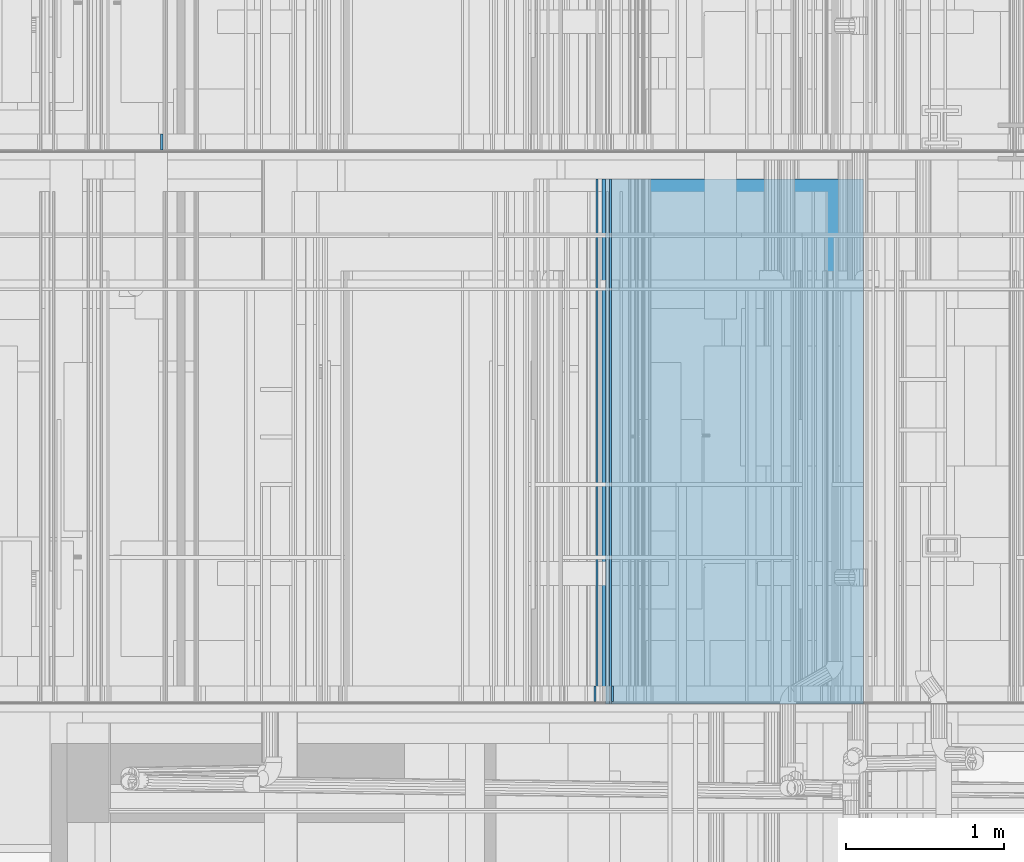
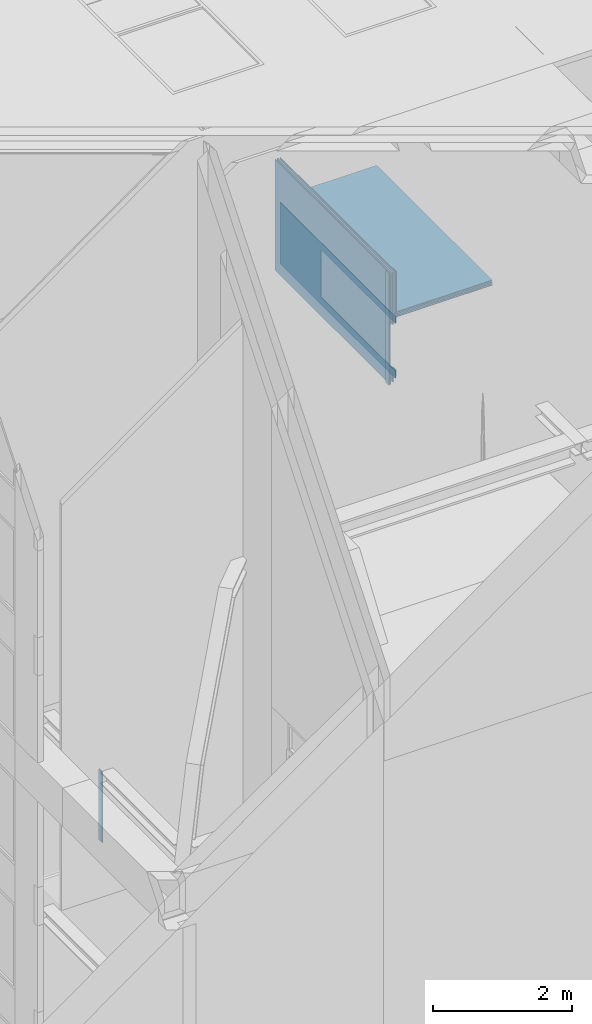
# One storey, part 69 of 583: 11 building element parts, 2 openings, 3 elements without a shape of their own.
"""IFC2X3 building model written with IfcOpenShell, lengths in metres."""

from ifc_helpers import new_model, entity, si_unit, converted_unit, derived_unit, money_unit, direction, frame, frame_2d, origin_with_axes, place, context, subcontext, project, spatial, polyline, rectangle, outline, extrude, material, type_object, element, aggregate, save


model = new_model("IFC2X3")

# Units and contexts
model_context = context("Model", 3, precision=1e-05, world=origin_with_axes(), true_north=direction((0.0, 1.0)))
body_context = subcontext(model_context, "Body", "Model", "MODEL_VIEW", scale=1.0)
ifc_project = project(units=[si_unit("LENGTHUNIT", "METRE"), si_unit("AREAUNIT", "SQUARE_METRE"), si_unit("VOLUMEUNIT", "CUBIC_METRE"), si_unit("ABSORBEDDOSEUNIT", "GRAY"), si_unit("AMOUNTOFSUBSTANCEUNIT", "MOLE"), si_unit("DOSEEQUIVALENTUNIT", "SIEVERT"), si_unit("ELECTRICCAPACITANCEUNIT", "FARAD"), si_unit("ELECTRICCHARGEUNIT", "COULOMB"), si_unit("ELECTRICCONDUCTANCEUNIT", "SIEMENS"), si_unit("ELECTRICCURRENTUNIT", "AMPERE"), si_unit("ELECTRICRESISTANCEUNIT", "OHM"), si_unit("ELECTRICVOLTAGEUNIT", "VOLT"), si_unit("ENERGYUNIT", "JOULE"), si_unit("FORCEUNIT", "NEWTON"), si_unit("FREQUENCYUNIT", "HERTZ"), si_unit("ILLUMINANCEUNIT", "LUX"), si_unit("INDUCTANCEUNIT", "HENRY"), si_unit("LUMINOUSFLUXUNIT", "LUMEN"), si_unit("LUMINOUSINTENSITYUNIT", "CANDELA"), si_unit("MAGNETICFLUXDENSITYUNIT", "TESLA"), si_unit("MAGNETICFLUXUNIT", "WEBER"), si_unit("MASSUNIT", "GRAM"), converted_unit("PLANEANGLEUNIT", "degree", entity("IfcReal", 0.0174532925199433), si_unit("PLANEANGLEUNIT", "RADIAN"), dimensions=[0, 0, 0, 0, 0, 0, 0]), si_unit("POWERUNIT", "WATT"), si_unit("PRESSUREUNIT", "PASCAL"), si_unit("RADIOACTIVITYUNIT", "BECQUEREL"), si_unit("SOLIDANGLEUNIT", "STERADIAN"), si_unit("THERMODYNAMICTEMPERATUREUNIT", "KELVIN"), si_unit("TIMEUNIT", "SECOND"), derived_unit("ACCELERATIONUNIT", [(si_unit("LENGTHUNIT", "METRE"), 1), (si_unit("TIMEUNIT", "SECOND"), -2)]), derived_unit("ANGULARVELOCITYUNIT", [(converted_unit("PLANEANGLEUNIT", "degree", entity("IfcReal", 0.0174532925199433), si_unit("PLANEANGLEUNIT", "RADIAN"), dimensions=[0, 0, 0, 0, 0, 0, 0]), 1), (si_unit("TIMEUNIT", "SECOND"), -1)]), derived_unit("CURVATUREUNIT", [(converted_unit("PLANEANGLEUNIT", "degree", entity("IfcReal", 0.0174532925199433), si_unit("PLANEANGLEUNIT", "RADIAN"), dimensions=[0, 0, 0, 0, 0, 0, 0]), 1), (si_unit("LENGTHUNIT", "METRE"), -1)]), derived_unit("DYNAMICVISCOSITYUNIT", [(si_unit("PRESSUREUNIT", "PASCAL"), 1), (si_unit("TIMEUNIT", "SECOND"), 1)]), derived_unit("HEATFLUXDENSITYUNIT", [(si_unit("POWERUNIT", "WATT"), 1), (si_unit("LENGTHUNIT", "METRE"), -2)]), derived_unit("HEATINGVALUEUNIT", [(si_unit("ENERGYUNIT", "JOULE"), 1), (si_unit("MASSUNIT", "GRAM"), -1)]), derived_unit("INTEGERCOUNTRATEUNIT", [(si_unit("TIMEUNIT", "SECOND"), -1)]), derived_unit("IONCONCENTRATIONUNIT", [(si_unit("MASSUNIT", "GRAM"), 1), (si_unit("VOLUMEUNIT", "CUBIC_METRE"), -1)]), derived_unit("ISOTHERMALMOISTURECAPACITYUNIT", [(si_unit("VOLUMEUNIT", "CUBIC_METRE"), 1), (si_unit("MASSUNIT", "GRAM"), -1)]), derived_unit("KINEMATICVISCOSITYUNIT", [(si_unit("AREAUNIT", "SQUARE_METRE"), 1), (si_unit("TIMEUNIT", "SECOND"), -1)]), derived_unit("LINEARFORCEUNIT", [(si_unit("FORCEUNIT", "NEWTON"), 1), (si_unit("LENGTHUNIT", "METRE"), -1)]), derived_unit("LINEARMOMENTUNIT", [(si_unit("FORCEUNIT", "NEWTON"), 1), (si_unit("LENGTHUNIT", "METRE"), -1)]), derived_unit("LINEARSTIFFNESSUNIT", [(si_unit("FORCEUNIT", "NEWTON"), 1), (si_unit("LENGTHUNIT", "METRE"), -1)]), derived_unit("LINEARVELOCITYUNIT", [(si_unit("LENGTHUNIT", "METRE"), 1), (si_unit("TIMEUNIT", "SECOND"), -1)]), derived_unit("LUMINOUSINTENSITYDISTRIBUTIONUNIT", [(si_unit("LUMINOUSINTENSITYUNIT", "CANDELA"), 1), (si_unit("LUMINOUSFLUXUNIT", "LUMEN"), -1)]), derived_unit("MASSDENSITYUNIT", [(si_unit("MASSUNIT", "GRAM"), 1), (si_unit("VOLUMEUNIT", "CUBIC_METRE"), -1)]), derived_unit("MASSFLOWRATEUNIT", [(si_unit("MASSUNIT", "GRAM"), 1), (si_unit("TIMEUNIT", "SECOND"), -1)]), derived_unit("MASSPERLENGTHUNIT", [(si_unit("MASSUNIT", "GRAM"), 1), (si_unit("LENGTHUNIT", "METRE"), -1)]), derived_unit("MODULUSOFELASTICITYUNIT", [(si_unit("FORCEUNIT", "NEWTON"), 1), (si_unit("AREAUNIT", "SQUARE_METRE"), -1)]), derived_unit("MODULUSOFLINEARSUBGRADEREACTIONUNIT", [(si_unit("FORCEUNIT", "NEWTON"), 1), (si_unit("LENGTHUNIT", "METRE"), -2)]), derived_unit("MODULUSOFROTATIONALSUBGRADEREACTIONUNIT", [(si_unit("FORCEUNIT", "NEWTON"), 1), (si_unit("LENGTHUNIT", "METRE"), 1)]), derived_unit("MODULUSOFSUBGRADEREACTIONUNIT", [(si_unit("FORCEUNIT", "NEWTON"), 1), (si_unit("VOLUMEUNIT", "CUBIC_METRE"), -1)]), derived_unit("MOISTUREDIFFUSIVITYUNIT", [(si_unit("VOLUMEUNIT", "CUBIC_METRE"), 1), (si_unit("TIMEUNIT", "SECOND"), -1)]), derived_unit("MOLECULARWEIGHTUNIT", [(si_unit("MASSUNIT", "GRAM"), 1), (si_unit("AMOUNTOFSUBSTANCEUNIT", "MOLE"), -1)]), derived_unit("PLANARFORCEUNIT", [(si_unit("FORCEUNIT", "NEWTON"), 1), (si_unit("LENGTHUNIT", "METRE"), -2)]), derived_unit("ROTATIONALFREQUENCYUNIT", [(si_unit("TIMEUNIT", "SECOND"), -1)]), derived_unit("ROTATIONALMASSUNIT", [(si_unit("MASSUNIT", "GRAM"), 1), (si_unit("LENGTHUNIT", "METRE"), 2)]), derived_unit("ROTATIONALSTIFFNESSUNIT", [(si_unit("FORCEUNIT", "NEWTON"), 1), (si_unit("LENGTHUNIT", "METRE"), 1), (converted_unit("PLANEANGLEUNIT", "degree", entity("IfcReal", 0.0174532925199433), si_unit("PLANEANGLEUNIT", "RADIAN"), dimensions=[0, 0, 0, 0, 0, 0, 0]), -1)]), derived_unit("SECTIONAREAINTEGRALUNIT", [(si_unit("LENGTHUNIT", "METRE"), 5)]), derived_unit("SECTIONMODULUSUNIT", [(si_unit("LENGTHUNIT", "METRE"), 3)]), derived_unit("SHEARMODULUSUNIT", [(si_unit("FORCEUNIT", "NEWTON"), 1), (si_unit("AREAUNIT", "SQUARE_METRE"), -1)]), derived_unit("SOUNDPOWERUNIT", [(si_unit("ENERGYUNIT", "JOULE"), 1), (si_unit("TIMEUNIT", "SECOND"), -1)]), derived_unit("SPECIFICHEATCAPACITYUNIT", [(si_unit("FORCEUNIT", "NEWTON"), 1), (si_unit("MASSUNIT", "GRAM"), -1), (si_unit("THERMODYNAMICTEMPERATUREUNIT", "KELVIN"), -1)]), derived_unit("TEMPERATUREGRADIENTUNIT", [(si_unit("THERMODYNAMICTEMPERATUREUNIT", "KELVIN"), 1), (si_unit("LENGTHUNIT", "METRE"), -1)]), derived_unit("THERMALADMITTANCEUNIT", [(si_unit("POWERUNIT", "WATT"), 1), (si_unit("AREAUNIT", "SQUARE_METRE"), -1), (si_unit("THERMODYNAMICTEMPERATUREUNIT", "KELVIN"), -1)]), derived_unit("THERMALCONDUCTANCEUNIT", [(si_unit("POWERUNIT", "WATT"), 1), (si_unit("LENGTHUNIT", "METRE"), -1), (si_unit("THERMODYNAMICTEMPERATUREUNIT", "KELVIN"), -1)]), derived_unit("THERMALEXPANSIONCOEFFICIENTUNIT", [(si_unit("THERMODYNAMICTEMPERATUREUNIT", "KELVIN"), -1)]), derived_unit("THERMALRESISTANCEUNIT", [(si_unit("AREAUNIT", "SQUARE_METRE"), 1), (si_unit("POWERUNIT", "WATT"), -1)]), derived_unit("THERMALTRANSMITTANCEUNIT", [(si_unit("POWERUNIT", "WATT"), 1), (si_unit("AREAUNIT", "SQUARE_METRE"), -1), (si_unit("THERMODYNAMICTEMPERATUREUNIT", "KELVIN"), -1)]), derived_unit("TORQUEUNIT", [(si_unit("FORCEUNIT", "NEWTON"), 1), (si_unit("LENGTHUNIT", "METRE"), 1)]), derived_unit("VAPORPERMEABILITYUNIT", [(si_unit("MASSUNIT", "GRAM"), 1), (si_unit("TIMEUNIT", "SECOND"), -1)]), derived_unit("VOLUMETRICFLOWRATEUNIT", [(si_unit("VOLUMEUNIT", "CUBIC_METRE"), 1), (si_unit("TIMEUNIT", "SECOND"), -1)]), derived_unit("WARPINGCONSTANTUNIT", [(si_unit("LENGTHUNIT", "METRE"), 6)]), derived_unit("WARPINGMOMENTUNIT", [(si_unit("FORCEUNIT", "NEWTON"), 1), (si_unit("LENGTHUNIT", "METRE"), 2)]), money_unit("GBP")], contexts=[model_context])

# Site, building, storey
site_placement = place(None, origin_with_axes())
site = spatial("IfcSite", under=ifc_project, at=site_placement, Name="Site", CompositionType="ELEMENT")
building_placement = place(site_placement, origin_with_axes())
building = spatial("IfcBuilding", under=site, at=building_placement, Name="Building01", CompositionType="ELEMENT")
storey_placement = place(building_placement, frame((0.0, 0.0, 20.78), z_axis=(0.0, 0.0, 1.0), x_axis=(1.0, 0.0, 0.0)))
storey = spatial("IfcBuildingStorey", under=building, at=storey_placement, Name="RL", CompositionType="ELEMENT", Elevation=20.78)

# Wall, openings, building element parts
wall_type_1 = type_object("IfcWallType", Name="SHE_A-Walls_Type05a_Partition_95mm_tall", PredefinedType="NOTDEFINED")
wall_1_placement = place(storey_placement, frame((6.94, 5.15, 0.577661), z_axis=(0.0, 1.0, 0.0), x_axis=(0.0, 0.0, 1.0)))
wall_1 = element("IfcWall", 1, at=wall_1_placement, inside=storey, type_object=wall_type_1, Name="5A", ObjectType="SHE_A-Walls_Type05a_Partition_95mm_tall")
opening_1_placement = place(wall_1_placement, frame((0.177, 0.005, -0.015), z_axis=(0.0, 0.0, 1.0), x_axis=(1.0, 0.0, 0.0)))
element("IfcOpeningElement", 2, at=opening_1_placement, cuts=wall_1, Name="Opening", ObjectType="Opening", context=body_context, shape_type="SweptSolid", body=[
    extrude(rectangle(XDim=2.142, YDim=0.834, at=frame_2d((-0.417, 1.071), x_axis=(0.0, -1.0))), frame((0.0, -0.03, 0.0), z_axis=(0.0, 1.0, 0.0), x_axis=(-1.0, 0.0, 0.0)), (0.0, 0.0, 1.0), 0.06),
])
opening_2_placement = place(wall_1_placement, frame((0.177, 0.06, 0.0), z_axis=(0.0, 0.0, 1.0), x_axis=(1.0, 0.0, 0.0)))
element("IfcOpeningElement", 3, at=opening_2_placement, cuts=wall_1, Name="Opening", ObjectType="Opening", context=body_context, shape_type="SweptSolid", body=[
    extrude(rectangle(XDim=2.142, YDim=0.834, at=frame_2d((-0.417, 1.071), x_axis=(0.0, -1.0))), frame((0.0, -0.09, 0.0), z_axis=(0.0, 1.0, 0.0), x_axis=(-1.0, 0.0, 0.0)), (0.0, 0.0, 1.0), 0.18),
])
ifc_material_1 = material(Name="A_BSUK_Insulation")
placement_1 = place(wall_1_placement, origin_with_axes())
building_element_part_1 = element("IfcBuildingElementPart", 4, at=placement_1, material=ifc_material_1, Name="1", context=body_context, shape_type="SweptSolid", body=[
    extrude(rectangle(XDim=1.913868, YDim=0.025, at=frame_2d((0.956934, 0.0125), x_axis=(-1.0, 0.0))), origin_with_axes(), (0.0, 0.0, 1.0), 3.32),
])
ifc_material_2 = material(Name="A_BSUK_Walls_Timber")
building_element_part_2 = element("IfcBuildingElementPart", 5, at=placement_1, material=ifc_material_2, Name="2", context=body_context, shape_type="SweptSolid", body=[
    extrude(outline(polyline([(1.119, 0.075), (0.075, 0.075), (0.06, 0.06), (1.119, 0.06), (1.119, 0.075)])), frame((0.0, 0.0, 0.015), z_axis=(0.0, 0.0, 1.0), x_axis=(1.0, 0.0, 0.0)), (0.0, 0.0, 1.0), 0.1),
])
building_element_part_3 = element("IfcBuildingElementPart", 6, at=placement_1, material=ifc_material_2, Name="3", context=body_context, shape_type="SweptSolid", body=[
    extrude(outline(polyline([(1.913868, -0.035), (-0.035, -0.035), (-0.05, -0.05), (1.913868, -0.05), (1.913868, -0.035)])), frame((0.0, 0.0, 0.015), z_axis=(0.0, 0.0, 1.0), x_axis=(1.0, 0.0, 0.0)), (0.0, 0.0, 1.0), 0.1),
])
building_element_part_4 = element("IfcBuildingElementPart", 7, at=placement_1, material=ifc_material_2, Name="4", context=body_context, shape_type="SweptSolid", body=[
    extrude(outline(polyline([(1.913868, 0.075), (0.075, 0.075), (0.06, 0.06), (1.913868, 0.06), (1.913868, 0.075)])), frame((0.0, 0.0, 0.015), z_axis=(0.0, 0.0, 1.0), x_axis=(1.0, 0.0, 0.0)), (0.0, 0.0, 1.0), 0.1),
])
ifc_material_3 = material(Name="A_BSUK_WallInternal_Finishes_Plasterboard")
building_element_part_5 = element("IfcBuildingElementPart", 8, at=placement_1, material=ifc_material_3, Name="5", context=body_context, shape_type="SweptSolid", body=[
    extrude(outline(polyline([(1.131, 0.06), (0.06, 0.06), (0.048, 0.048), (1.131, 0.048), (1.131, 0.06)])), origin_with_axes(), (0.0, 0.0, 1.0), 3.32),
])
building_element_part_6 = element("IfcBuildingElementPart", 9, at=placement_1, material=ifc_material_3, Name="6", context=body_context, shape_type="SweptSolid", body=[
    extrude(outline(polyline([(1.913868, -0.023), (-0.023, -0.023), (-0.035, -0.035), (1.913868, -0.035), (1.913868, -0.023)])), origin_with_axes(), (0.0, 0.0, 1.0), 3.32),
])
building_element_part_7 = element("IfcBuildingElementPart", 10, at=placement_1, material=ifc_material_3, Name="7", context=body_context, shape_type="SweptSolid", body=[
    extrude(outline(polyline([(1.913868, 0.06), (0.06, 0.06), (0.048, 0.048), (1.913868, 0.048), (1.913868, 0.06)])), origin_with_axes(), (0.0, 0.0, 1.0), 3.32),
])
aggregate(wall_1, [building_element_part_1, building_element_part_2, building_element_part_3, building_element_part_4, building_element_part_5, building_element_part_6, building_element_part_7])

# Wall, building element parts
wall_2_placement = place(storey_placement, frame((6.965, 5.15, 1.756661), z_axis=(0.0, 1.0, 0.0), x_axis=(1.0, 0.0, 0.0)))
wall_2 = element("IfcWall", 11, at=wall_2_placement, inside=storey, type_object=wall_type_1, Name="5A", ObjectType="SHE_A-Walls_Type05a_Partition_95mm_tall")
placement_2 = place(wall_2_placement, origin_with_axes())
building_element_part_8 = element("IfcBuildingElementPart", 12, at=placement_2, material=ifc_material_1, Name="1", context=body_context, shape_type="SweptSolid", body=[
    extrude(rectangle(XDim=1.63, YDim=0.025, at=frame_2d((0.815, 0.0125), x_axis=(-1.0, 0.0))), origin_with_axes(), (0.0, 0.0, 1.0), 3.32),
])
building_element_part_9 = element("IfcBuildingElementPart", 13, at=placement_2, material=ifc_material_3, Name="4", context=body_context, shape_type="SweptSolid", body=[
    extrude(rectangle(XDim=1.595, YDim=0.012, at=frame_2d((0.8325, 0.054), x_axis=(-1.0, 0.0))), origin_with_axes(), (0.0, 0.0, 1.0), 3.32),
])
building_element_part_10 = element("IfcBuildingElementPart", 14, at=placement_2, material=ifc_material_3, Name="5", context=body_context, shape_type="SweptSolid", body=[
    extrude(rectangle(XDim=1.595, YDim=0.012, at=frame_2d((0.8325, -0.029), x_axis=(-1.0, 0.0))), origin_with_axes(), (0.0, 0.0, 1.0), 3.32),
])
aggregate(wall_2, [building_element_part_8, building_element_part_9, building_element_part_10])

# Wall, building element part
wall_type_2 = type_object("IfcWallType", Name="SHE_A-Walls_Type01c_Partywall_225mm_twin_tall", PredefinedType="NOTDEFINED")
wall_3_placement = place(storey_placement, frame((4.302428, 8.64, -8.492), z_axis=(0.0, 1.0, 0.0), x_axis=(0.0, 0.0, 1.0)))
wall_3 = element("IfcWall", 15, at=wall_3_placement, inside=storey, type_object=wall_type_2, Name="1C", ObjectType="SHE_A-Walls_Type01c_Partywall_225mm_twin_tall")
building_element_part_11_placement = place(wall_3_placement, origin_with_axes())
building_element_part_11 = element("IfcBuildingElementPart", 16, at=building_element_part_11_placement, material=ifc_material_2, Name="7", context=body_context, shape_type="SweptSolid", body=[
    extrude(rectangle(XDim=1.2375, YDim=0.015, at=frame_2d((0.46575, -0.1455), x_axis=(-1.0, 0.0))), frame((0.0, 0.0, 0.015), z_axis=(0.0, 0.0, 1.0), x_axis=(1.0, 0.0, 0.0)), (0.0, 0.0, 1.0), 0.1),
])
aggregate(wall_3, [building_element_part_11])

save(model, "model.ifc")
